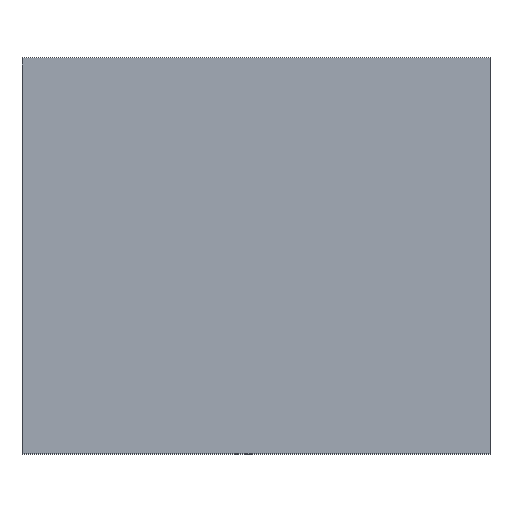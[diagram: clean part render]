
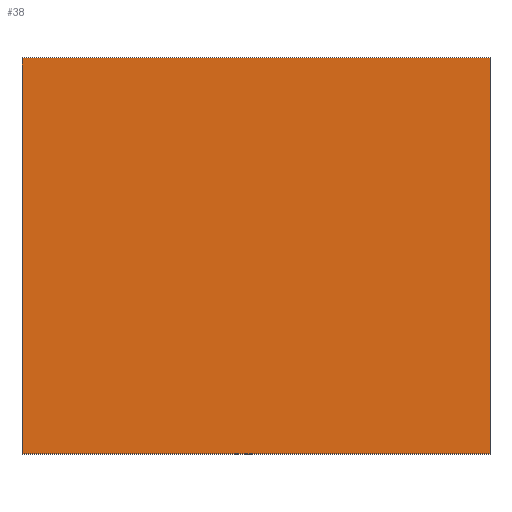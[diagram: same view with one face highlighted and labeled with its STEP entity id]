
A CAD part, top view. The second image highlights one B-rep face of the part: STEP entity #38.
In plain terms, the highlighted planar face has unit normal (0, 0, 1).
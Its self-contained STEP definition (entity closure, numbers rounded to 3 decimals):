
#38=ADVANCED_FACE('',(#50),#44,.F.);
#44=PLANE('',#131);
#50=FACE_OUTER_BOUND('',#56,.T.);
#56=EDGE_LOOP('',(#74,#75,#76,#77));
#74=ORIENTED_EDGE('',*,*,#92,.F.);
#75=ORIENTED_EDGE('',*,*,#101,.F.);
#76=ORIENTED_EDGE('',*,*,#98,.F.);
#77=ORIENTED_EDGE('',*,*,#95,.F.);
#84=VERTEX_POINT('',#164);
#85=VERTEX_POINT('',#166);
#87=VERTEX_POINT('',#172);
#89=VERTEX_POINT('',#178);
#92=EDGE_CURVE('',#84,#85,#104,.T.);
#95=EDGE_CURVE('',#85,#87,#107,.T.);
#98=EDGE_CURVE('',#87,#89,#110,.T.);
#101=EDGE_CURVE('',#89,#84,#113,.T.);
#104=LINE('',#165,#116);
#107=LINE('',#171,#119);
#110=LINE('',#177,#122);
#113=LINE('',#182,#125);
#116=VECTOR('',#137,1.);
#119=VECTOR('',#142,1.);
#122=VECTOR('',#147,1.);
#125=VECTOR('',#152,1.);
#131=AXIS2_PLACEMENT_3D('',#184,#155,#156);
#137=DIRECTION('',(0.,1.,0.));
#142=DIRECTION('',(1.,0.,0.));
#147=DIRECTION('',(0.,-1.,0.));
#152=DIRECTION('',(-1.,0.,0.));
#155=DIRECTION('',(0.,0.,-1.));
#156=DIRECTION('',(-1.,0.,0.));
#164=CARTESIAN_POINT('',(-65.,-55.,5.));
#165=CARTESIAN_POINT('',(-65.,-55.,5.));
#166=CARTESIAN_POINT('',(-65.,55.,5.));
#171=CARTESIAN_POINT('',(-65.,55.,5.));
#172=CARTESIAN_POINT('',(65.,55.,5.));
#177=CARTESIAN_POINT('',(65.,55.,5.));
#178=CARTESIAN_POINT('',(65.,-55.,5.));
#182=CARTESIAN_POINT('',(65.,-55.,5.));
#184=CARTESIAN_POINT('',(0.,0.,5.));
